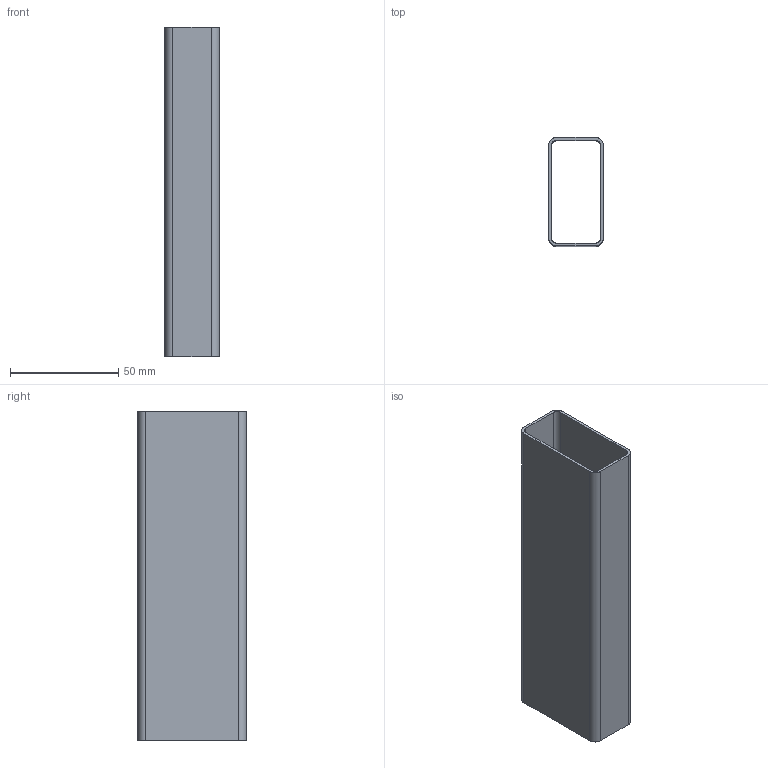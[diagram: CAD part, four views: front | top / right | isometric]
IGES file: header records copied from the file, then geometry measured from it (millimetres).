
Start section: SolidWorks IGES file using analytic representation for surfaces
Global section: file name: C:\Working\Gusset Convert\DRP-002-0000-04.IGS; native system: SolidWorks 2010; preprocessor: SolidWorks 2010; author: mbush2; date: 100624.123438; units: inch
Bounding box: 25.15 x 50.15 x 152.4 mm (x, y, z)
Surface area: 43174.5 mm2 (no closed solid volume)
Topology: 0 solids, 0 shells, 18 faces, 208 edges, 208 vertices
Faces by surface type: bspline 10, revolution 8
